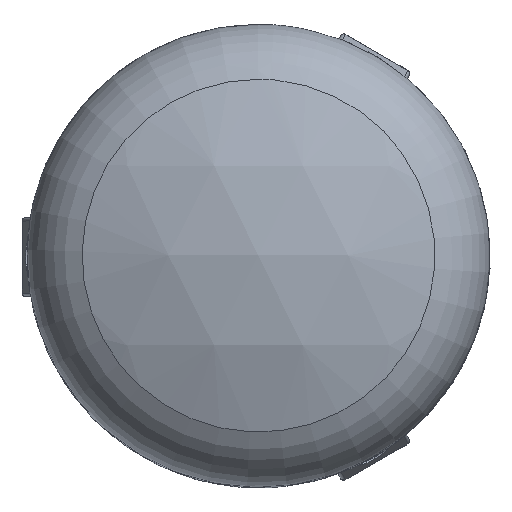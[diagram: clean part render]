
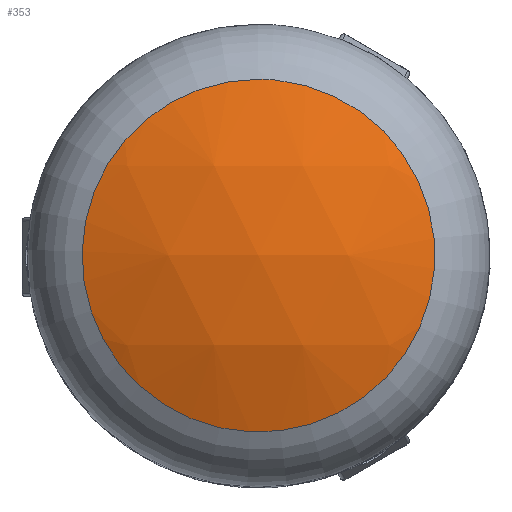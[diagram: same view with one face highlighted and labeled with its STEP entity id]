
A CAD part, top view. The second image highlights one B-rep face of the part: STEP entity #353.
In plain terms, the highlighted spherical face has radius 10160 mm.
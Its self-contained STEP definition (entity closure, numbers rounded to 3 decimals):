
#353=ADVANCED_FACE('',(#13269),#13271,.T.);
#13269=FACE_BOUND('',#13270,.T.);
#13270=EDGE_LOOP('',(#16167,#16168));
#13271=SPHERICAL_SURFACE('',#13272,10160.);
#13272=AXIS2_PLACEMENT_3D('',#13273,#13274,#13275);
#13273=CARTESIAN_POINT('',(0.,0.,-1982.741));
#13274=DIRECTION('',(0.,-1.,0.));
#13275=DIRECTION('',(1.,0.,0.));
#16167=ORIENTED_EDGE('',*,*,#18045,.F.);
#16168=ORIENTED_EDGE('',*,*,#18046,.F.);
#18045=EDGE_CURVE('',#19103,#19104,#19105,.T.);
#18046=EDGE_CURVE('',#19104,#19103,#19106,.T.);
#19103=VERTEX_POINT('',#21842);
#19104=VERTEX_POINT('',#21843);
#19105=CIRCLE('',#21844,3968.75);
#19106=CIRCLE('',#21848,3968.75);
#21842=CARTESIAN_POINT('',(388.694,3949.658,7370.051));
#21843=CARTESIAN_POINT('',(0.,3968.75,7370.046));
#21844=AXIS2_PLACEMENT_3D('',#21845,#21846,#21847);
#21845=CARTESIAN_POINT('',(0.,0.,7370.046));
#21846=DIRECTION('',(0.,0.,-1.));
#21847=DIRECTION('',(0.098,0.995,0.));
#21848=AXIS2_PLACEMENT_3D('',#21849,#21850,#21851);
#21849=CARTESIAN_POINT('',(0.,0.,7370.046));
#21850=DIRECTION('',(0.,0.,-1.));
#21851=DIRECTION('',(0.,1.,0.));
